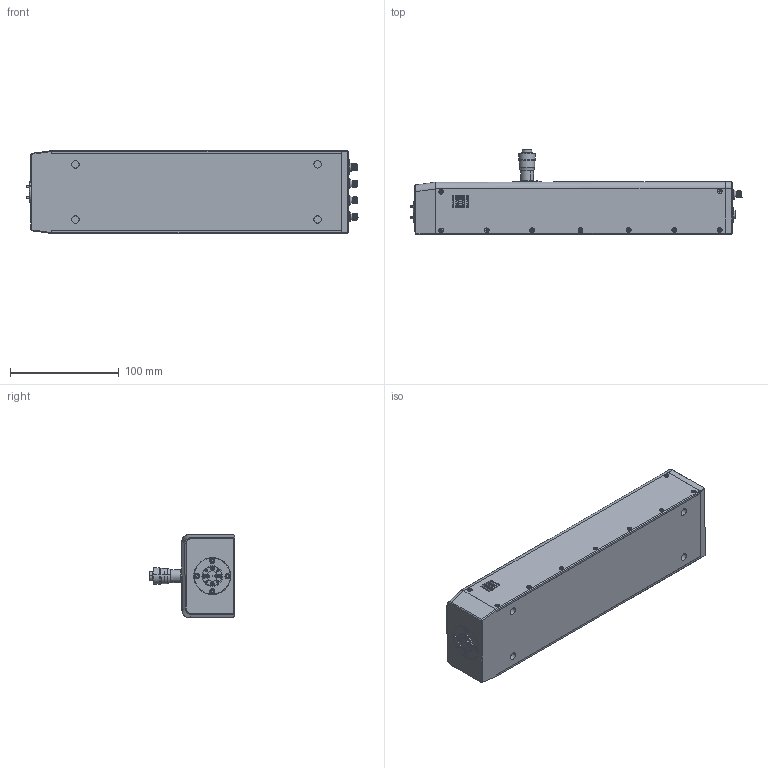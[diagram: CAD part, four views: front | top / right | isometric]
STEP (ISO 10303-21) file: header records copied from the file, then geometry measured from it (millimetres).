
FILE_DESCRIPTION (( 'STEP AP214' ), '1' );
FILE_NAME ('TO-S03-A-M_No Feet, Defeatured.STEP', '2023-06-27T23:16:58', ( '' ), ( '' ), 'SwSTEP 2.0', 'SolidWorks 2021', '' );
FILE_SCHEMA (( 'AUTOMOTIVE_DESIGN' ));
Length unit declared in the file: inch
Products named in the file (1): TO-S03-A-M_No Feet, Defeatured
Bounding box: 305.75 x 78.84 x 76.39 mm (x, y, z)
Volume: 1070396.9 mm3; surface area: 147602.6 mm2
Topology: 29 solids, 47 shells, 1983 faces, 4998 edges, 3169 vertices
Faces by surface type: plane 814, cylinder 729, cone 373, bspline 59, torus 8
Entity records: 108752 total; most frequent: CARTESIAN_POINT 38057, ORIENTED_EDGE 9836, DIRECTION 9272, EDGE_CURVE 4918, AXIS2_PLACEMENT_3D 3556, VERTEX_POINT 3169, EDGE_LOOP 2227, LINE 2160
